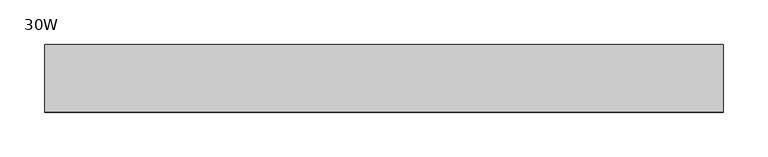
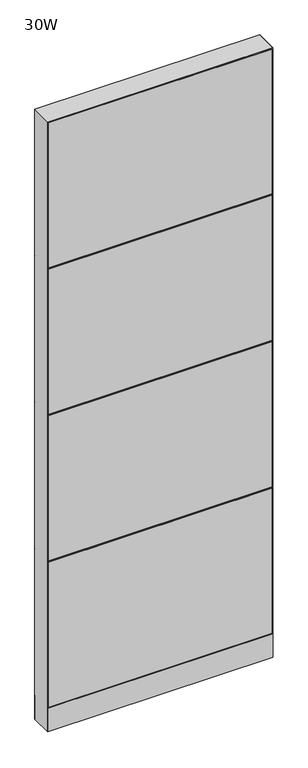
"""IFC4 building model written with IfcOpenShell, lengths in millimetres: furniture geometry, Steelcase - Montage - Frame - 86H - Enhanced Monolithic - Base Cavity : 30W."""

from ifc_helpers import new_model, si_unit, point, frame, frame_2d, origin, origin_with_axes, place, context, project, spatial, polyline, circle_curve, trimmed, segment, composite_curve, outline, extrude, faceted_brep, source, transform, mapped, element, save


def furniture_30w_f705c2d0(model_context):
    return source(origin(), model_context, "Body", "SolidModel", [
        faceted_brep([(450.8500047, 31.7526299, 1142.9999997), (450.8500047, 31.7526299, 1130.3000003), (457.2, 38.1026253, 1136.6499956), (-5.4e-06, 38.102627, 1136.6500027), (6.3499917, 31.7526299, 1142.9999997), (6.3499917, 31.7526299, 1130.3000003)], [[[0, 1, 2]], [[3, 4, 0, 2]], [[2, 1, 5, 3]], [[4, 5, 1, 0]], [[3, 5, 4]]]),
        faceted_brep([(6.3499917, 31.7526299, 619.1249997), (6.3499917, 31.7526299, 606.4250003), (450.8500047, 31.7526299, 606.4250003), (450.8500047, 31.7526299, 619.1249997), (-5.4e-06, 38.102627, 612.7750027), (457.2, 38.1026253, 612.7750044)], [[[0, 1, 2, 3]], [[4, 0, 3, 5]], [[5, 2, 1, 4]], [[4, 1, 0]], [[3, 2, 5]]]),
        faceted_brep([(-5.4e-06, 38.102627, 1660.5250027), (6.3499917, 31.7526299, 1666.8749997), (450.8500047, 31.7526299, 1666.8749997), (457.2, 38.1026253, 1660.5250044), (450.8500047, 31.7526299, 1654.1750003), (6.3499917, 31.7526299, 1654.1750003)], [[[0, 1, 2, 3]], [[2, 4, 3]], [[3, 4, 5, 0]], [[1, 5, 4, 2]], [[0, 5, 1]]]),
        extrude(outline(polyline([(3.175, 31.7500194), (3.175, 38.1000194), (454.025, 38.1000194), (454.025, 31.7500194), (3.175, 31.7500194)])), frame((0.0, 0.0, 1663.7), z_axis=(0.0, 0.0, 1.0), x_axis=(1.0, 0.0, 0.0)), (0.0, 0.0, 1.0), 517.525),
        extrude(outline(polyline([(3.175, 31.7500194), (3.175, 38.1000194), (454.025, 38.1000194), (454.025, 31.7500194), (3.175, 31.7500194)])), frame((0.0, 0.0, 92.075), z_axis=(0.0, 0.0, 1.0), x_axis=(1.0, 0.0, 0.0)), (0.0, 0.0, 1.0), 517.525),
        extrude(outline(polyline([(3.175, 31.7500194), (3.175, 38.1000194), (454.025, 38.1000194), (454.025, 31.7500194), (3.175, 31.7500194)])), frame((0.0, 0.0, 615.95), z_axis=(0.0, 0.0, 1.0), x_axis=(1.0, 0.0, 0.0)), (0.0, 0.0, 1.0), 517.525),
        extrude(outline(polyline([(3.175, 31.7500194), (3.175, 38.1000194), (454.025, 38.1000194), (454.025, 31.7500194), (3.175, 31.7500194)])), frame((0.0, 0.0, 1139.825), z_axis=(0.0, 0.0, 1.0), x_axis=(1.0, 0.0, 0.0)), (0.0, 0.0, 1.0), 517.525),
        faceted_brep([(755.6500047, -31.7526299, 1142.9999997), (762.0, -38.1026253, 1136.6500044), (755.6500047, -31.7526299, 1130.3000003), (0.0, -38.1026297, 1136.65), (6.3499917, -31.7526299, 1142.9999997), (6.3499917, -31.7526299, 1130.3000003)], [[[0, 1, 2]], [[3, 1, 0, 4]], [[1, 3, 5, 2]], [[4, 0, 2, 5]], [[3, 4, 5]]]),
        faceted_brep([(6.3499917, -31.7526299, 619.1249997), (755.6500047, -31.7526299, 619.1249997), (755.6500047, -31.7526299, 606.4250003), (6.3499917, -31.7526299, 606.4250003), (0.0, -38.1026297, 612.775), (762.0, -38.1026297, 612.775)], [[[0, 1, 2, 3]], [[4, 5, 1, 0]], [[5, 4, 3, 2]], [[4, 0, 3]], [[1, 5, 2]]]),
        faceted_brep([(0.0, -38.1026297, 1660.525), (762.0, -38.1026297, 1660.525), (755.6500047, -31.7526299, 1666.8749997), (6.3499917, -31.7526299, 1666.8749997), (755.6500047, -31.7526299, 1654.1750003), (6.3499917, -31.7526299, 1654.1750003)], [[[0, 1, 2, 3]], [[2, 1, 4]], [[1, 0, 5, 4]], [[3, 2, 4, 5]], [[0, 3, 5]]]),
        extrude(outline(polyline([(3.175, -31.7500194), (758.825, -31.7500194), (758.825, -38.1000194), (3.175, -38.1000194), (3.175, -31.7500194)])), frame((0.0, 0.0, 1663.7), z_axis=(0.0, 0.0, 1.0), x_axis=(1.0, 0.0, 0.0)), (0.0, 0.0, 1.0), 517.525),
        extrude(outline(polyline([(3.175, -31.7500194), (758.825, -31.7500194), (758.825, -38.1000194), (3.175, -38.1000194), (3.175, -31.7500194)])), frame((0.0, 0.0, 92.075), z_axis=(0.0, 0.0, 1.0), x_axis=(1.0, 0.0, 0.0)), (0.0, 0.0, 1.0), 517.525),
        extrude(outline(polyline([(3.175, -31.7500194), (758.825, -31.7500194), (758.825, -38.1000194), (3.175, -38.1000194), (3.175, -31.7500194)])), frame((0.0, 0.0, 615.95), z_axis=(0.0, 0.0, 1.0), x_axis=(1.0, 0.0, 0.0)), (0.0, 0.0, 1.0), 517.525),
        extrude(outline(polyline([(3.175, -31.7500194), (758.825, -31.7500194), (758.825, -38.1000194), (3.175, -38.1000194), (3.175, -31.7500194)])), frame((0.0, 0.0, 1139.825), z_axis=(0.0, 0.0, 1.0), x_axis=(1.0, 0.0, 0.0)), (0.0, 0.0, 1.0), 517.525),
        extrude(outline(polyline([(6.350003, -31.7499985), (755.649997, -31.7499985), (762.0, -38.1000015), (0.0, -38.1000015), (6.350003, -31.7499985)])), frame((0.0, 0.0, 4.064), z_axis=(0.0, 0.0, 1.0), x_axis=(1.0, 0.0, 0.0)), (0.0, 0.0, 1.0), 84.835997),
        extrude(outline(polyline([(6.3500002, 31.7500017), (0.0, 38.1000015), (762.0, 38.1000015), (755.6500002, 31.7500017), (6.3500002, 31.7500017)])), frame((0.0, 0.0, 4.064), z_axis=(0.0, 0.0, 1.0), x_axis=(1.0, 0.0, 0.0)), (0.0, 0.0, 1.0), 84.835997),
        faceted_brep([(762.0, -38.1000015, 2184.4), (0.0, -38.1000015, 2184.4), (6.3500484, -31.749953, 2178.0499516), (755.6499516, -31.749953, 2178.0499516), (6.3500484, 31.749953, 2178.0499516), (755.6499516, 31.749953, 2178.0499516), (0.0, 38.1000015, 2184.4), (762.0, 38.1000015, 2184.4)], [[[0, 1, 2, 3]], [[3, 2, 4, 5]], [[6, 7, 5, 4]], [[1, 0, 7, 6]], [[2, 1, 6, 4]], [[0, 3, 5, 7]]]),
        extrude(outline(composite_curve([segment(trimmed(circle_curve(frame_2d((44.45, 0.0)), 15.24), [point((29.21, 0.0))], [point((59.69, 0.0))], False, "CARTESIAN"), True, "CONTINUOUS"), segment(trimmed(circle_curve(frame_2d((44.45, 0.0)), 15.24), [point((59.69, 0.0))], [point((29.21, 0.0))], False, "CARTESIAN"), True, "CONTINUOUS")], self_intersect=False)), origin_with_axes(), (0.0, 0.0, 1.0), 4.064),
        extrude(outline(composite_curve([segment(trimmed(circle_curve(frame_2d((717.55, 0.0)), 15.24), [point((702.31, 0.0))], [point((732.79, 0.0))], False, "CARTESIAN"), True, "CONTINUOUS"), segment(trimmed(circle_curve(frame_2d((717.55, 0.0)), 15.24), [point((732.79, 0.0))], [point((702.31, 0.0))], False, "CARTESIAN"), True, "CONTINUOUS")], self_intersect=False)), origin_with_axes(), (0.0, 0.0, 1.0), 4.064),
        faceted_brep([(762.0, -38.1000106, 4.064), (762.0, 38.1000015, 4.064), (762.0, 38.1000015, 2184.4), (762.0, -38.1000106, 2184.3999637), (0.0, 38.1000015, 4.064), (0.0, -38.1000015, 4.064), (0.0, -38.1000015, 2184.4), (0.0, 38.1000015, 2184.4), (755.6499879, 31.7500017, 606.425), (6.35, 31.7500017, 606.425), (6.3499998, 31.7500017, 619.125), (755.6499879, 31.7500017, 619.125), (6.35, -31.7499985, 619.125), (755.6499879, -31.7499985, 619.125), (6.350003, -31.7499985, 606.425), (755.6499879, -31.7499985, 606.425), (755.6499879, 31.7500017, 1130.3), (6.35, 31.7500017, 1130.3), (6.3499998, 31.7500017, 1143.0), (755.6499879, 31.7500017, 1143.0), (6.35, -31.7499985, 1143.0), (755.6499879, -31.7499985, 1143.0), (6.350003, -31.7499985, 1130.3), (755.6499879, -31.7499985, 1130.3), (6.35, 31.7500015, 4.064), (6.35, -31.7500015, 4.064), (755.6499879, 31.7499894, 4.064), (755.6499879, -31.7499985, 4.064), (6.35, 31.7500015, 2178.05), (6.3499999, 31.7500016, 1666.875), (6.3499998, 31.7500017, 1654.175), (6.3500015, -31.75, 1654.175), (6.350003, -31.7499985, 1666.875), (6.35, -31.7500015, 2178.05), (755.6499879, 31.7500017, 1654.175), (755.6499879, -31.7499985, 1654.175), (755.6499879, 31.7500017, 1666.875), (755.6499879, -31.7499985, 1666.875), (755.6499879, -31.7499985, 2178.0499516), (755.6499879, 31.7499895, 2178.0499516)], [[[0, 1, 2, 3]], [[4, 5, 6, 7]], [[8, 9, 10, 11]], [[11, 10, 12, 13]], [[13, 12, 14, 15]], [[9, 8, 15, 14]], [[16, 17, 18, 19]], [[19, 18, 20, 21]], [[21, 20, 22, 23]], [[17, 16, 23, 22]], [[24, 25, 5, 4]], [[26, 1, 0, 27]], [[24, 4, 7, 28, 29, 30, 18, 17, 10, 9]], [[5, 25, 14, 12, 22, 20, 31, 32, 33, 6]], [[25, 24, 9, 14]], [[18, 30, 31, 20]], [[10, 17, 22, 12]], [[32, 29, 28, 33]], [[26, 27, 15, 8]], [[16, 11, 13, 23]], [[34, 19, 21, 35]], [[36, 37, 38, 39]], [[27, 0, 3, 38, 37, 35, 21, 23, 13, 15]], [[1, 26, 8, 11, 16, 19, 34, 36, 39, 2]], [[7, 6, 33, 28]], [[3, 2, 39, 38]], [[34, 30, 29, 36]], [[36, 29, 32, 37]], [[37, 32, 31, 35]], [[30, 34, 35, 31]]]),
    ])


if __name__ == "__main__":
    model = new_model("IFC4")
    model_context = context("Model", 3, world=origin())
    ifc_project = project(units=[si_unit("LENGTHUNIT", "METRE", prefix="MILLI")], contexts=[model_context])
    site = spatial("IfcSite", under=ifc_project)
    building = spatial("IfcBuilding", under=site)
    placement = place(None, origin())
    furniture_30w_shape = furniture_30w_f705c2d0(model_context)
    element("IfcFurniture", 1, ObjectType="Steelcase - Montage - Frame - 86H - Enhanced Monolithic - Base Cavity : 30W", at=placement, inside=building, context=model_context, shape_type="MappedRepresentation", body=[
        mapped(furniture_30w_shape, transform((0.0, 0.0, 0.0), x_axis=(1.0, 0.0, 0.0), y_axis=(0.0, 1.0, 0.0), z_axis=(0.0, 0.0, 1.0))),
    ])
    save(model, "model.ifc")
